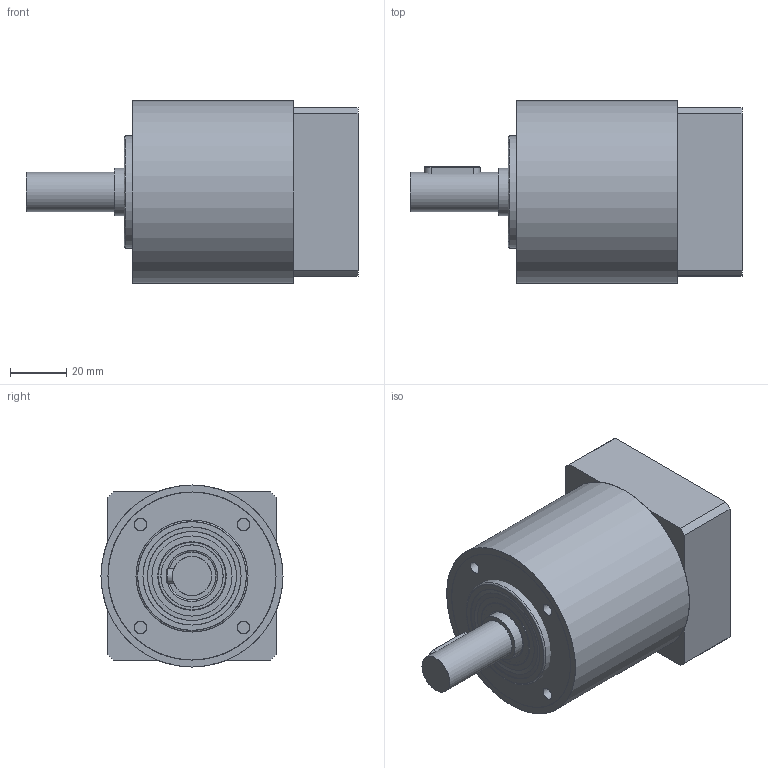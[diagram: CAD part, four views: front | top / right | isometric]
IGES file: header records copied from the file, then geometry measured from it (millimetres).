
Global section: file name: D:\ASSYCONF\WORK_DIRS\TEMP_#2\E00017964713MP040509092657_iges3D.igs; native system: NX V5.0; preprocessor: UGS NX IGES V5.0; date: 20090504.092849; units: millimetre
Bounding box: 118.55 x 65 x 65 mm (x, y, z)
Surface area: 71759.7 mm2 (no closed solid volume)
Topology: 0 solids, 0 shells, 139 faces, 2608 edges, 2532 vertices
Faces by surface type: revolution 89, extrusion 50
